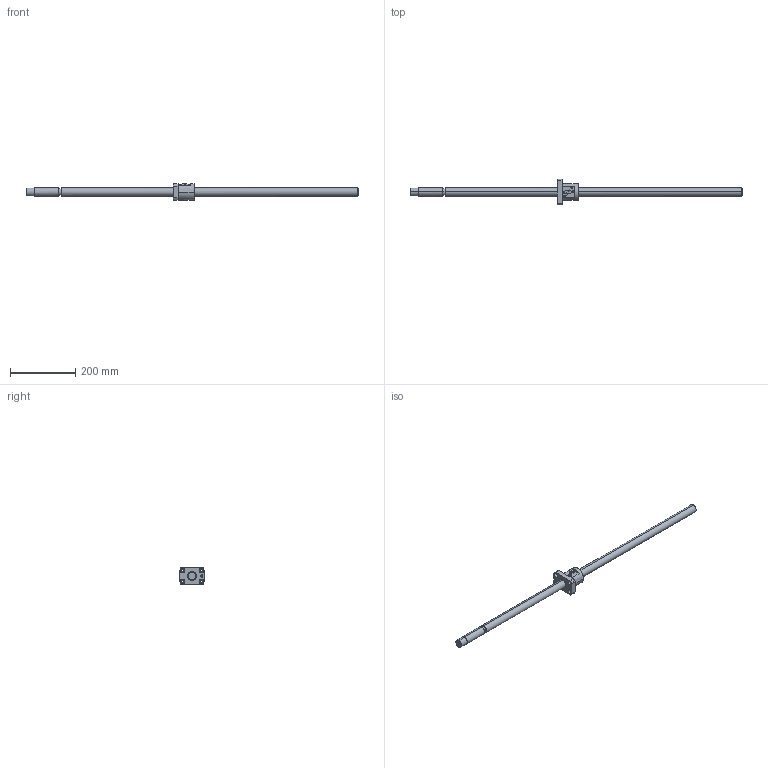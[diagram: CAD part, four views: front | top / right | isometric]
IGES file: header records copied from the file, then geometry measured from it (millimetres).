
Global section: file name: No Iges File Name specified; native system: AutoDesk Inventor R10; preprocessor: AutoDesk Inventor Iges Exporter R10; author: No Author specified; organization: No Organization specified; date: 20101224.141749; units: millimetre
Bounding box: 1020 x 78 x 52 mm (x, y, z)
Surface area: 108117.2 mm2 (no closed solid volume)
Topology: 0 solids, 0 shells, 139 faces, 1008 edges, 1006 vertices
Faces by surface type: bspline 139
